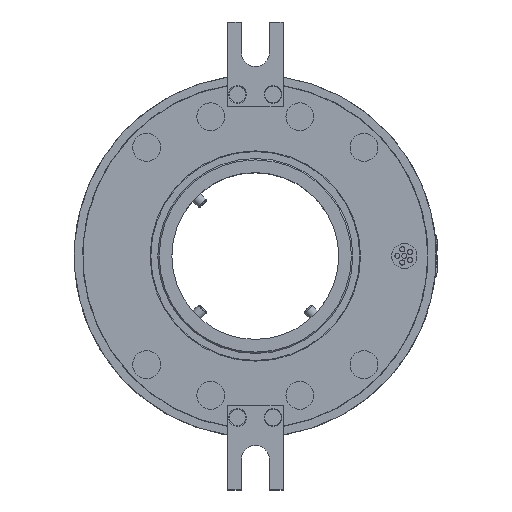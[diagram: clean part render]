
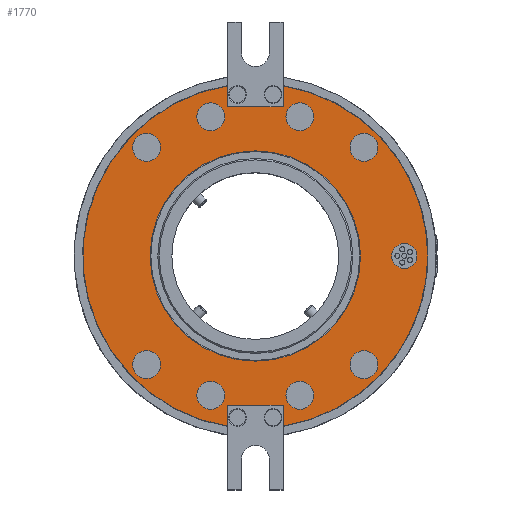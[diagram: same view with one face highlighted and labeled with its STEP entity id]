
A CAD part, top view. The second image highlights one B-rep face of the part: STEP entity #1770.
In plain terms, the highlighted planar face has unit normal (0, 0, 1).
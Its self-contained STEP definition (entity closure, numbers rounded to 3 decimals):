
#180=FACE_BOUND('',#3819,.T.);
#181=FACE_BOUND('',#3820,.T.);
#182=FACE_BOUND('',#3821,.T.);
#183=FACE_BOUND('',#3822,.T.);
#184=FACE_BOUND('',#3823,.T.);
#185=FACE_BOUND('',#3824,.T.);
#186=FACE_BOUND('',#3825,.T.);
#187=FACE_BOUND('',#3826,.T.);
#188=FACE_BOUND('',#3827,.T.);
#189=FACE_BOUND('',#3828,.T.);
#190=FACE_BOUND('',#3829,.T.);
#1070=CIRCLE('',#16500,5.);
#1071=CIRCLE('',#16501,5.);
#1072=CIRCLE('',#16502,5.);
#1073=CIRCLE('',#16503,5.);
#1074=CIRCLE('',#16504,4.5);
#1075=CIRCLE('',#16505,5.);
#1076=CIRCLE('',#16506,5.);
#1077=CIRCLE('',#16507,5.);
#1078=CIRCLE('',#16508,5.);
#1079=CIRCLE('',#16509,37.75);
#1080=CIRCLE('',#16510,61.9);
#1081=CIRCLE('',#16511,61.9);
#1770=ADVANCED_FACE('',(#180,#181,#182,#183,#184,#185,#186,#187,#188,#189,
#190),#2342,.T.);
#2342=PLANE('',#16512);
#3819=EDGE_LOOP('',(#7593));
#3820=EDGE_LOOP('',(#7594));
#3821=EDGE_LOOP('',(#7595));
#3822=EDGE_LOOP('',(#7596));
#3823=EDGE_LOOP('',(#7597));
#3824=EDGE_LOOP('',(#7598));
#3825=EDGE_LOOP('',(#7599));
#3826=EDGE_LOOP('',(#7600));
#3827=EDGE_LOOP('',(#7601));
#3828=EDGE_LOOP('',(#7602));
#3829=EDGE_LOOP('',(#7603,#7604,#7605,#7606,#7607,#7608,#7609,#7610));
#4493=LINE('',#31099,#5117);
#4494=LINE('',#31102,#5118);
#4495=LINE('',#31106,#5119);
#4496=LINE('',#31108,#5120);
#4497=LINE('',#31110,#5121);
#4498=LINE('',#31114,#5122);
#5117=VECTOR('',#18080,1.);
#5118=VECTOR('',#18081,1.);
#5119=VECTOR('',#18084,1.);
#5120=VECTOR('',#18085,1.);
#5121=VECTOR('',#18086,1.);
#5122=VECTOR('',#18089,1.);
#7593=ORIENTED_EDGE('',*,*,#13277,.T.);
#7594=ORIENTED_EDGE('',*,*,#13278,.T.);
#7595=ORIENTED_EDGE('',*,*,#13279,.T.);
#7596=ORIENTED_EDGE('',*,*,#13280,.T.);
#7597=ORIENTED_EDGE('',*,*,#13281,.T.);
#7598=ORIENTED_EDGE('',*,*,#13282,.T.);
#7599=ORIENTED_EDGE('',*,*,#13283,.T.);
#7600=ORIENTED_EDGE('',*,*,#13284,.T.);
#7601=ORIENTED_EDGE('',*,*,#13285,.T.);
#7602=ORIENTED_EDGE('',*,*,#13286,.T.);
#7603=ORIENTED_EDGE('',*,*,#13287,.T.);
#7604=ORIENTED_EDGE('',*,*,#13288,.T.);
#7605=ORIENTED_EDGE('',*,*,#13289,.F.);
#7606=ORIENTED_EDGE('',*,*,#13290,.T.);
#7607=ORIENTED_EDGE('',*,*,#13291,.T.);
#7608=ORIENTED_EDGE('',*,*,#13292,.T.);
#7609=ORIENTED_EDGE('',*,*,#13293,.F.);
#7610=ORIENTED_EDGE('',*,*,#13294,.T.);
#11135=VERTEX_POINT('',#31080);
#11136=VERTEX_POINT('',#31082);
#11137=VERTEX_POINT('',#31084);
#11138=VERTEX_POINT('',#31086);
#11139=VERTEX_POINT('',#31088);
#11140=VERTEX_POINT('',#31090);
#11141=VERTEX_POINT('',#31092);
#11142=VERTEX_POINT('',#31094);
#11143=VERTEX_POINT('',#31096);
#11144=VERTEX_POINT('',#31098);
#11145=VERTEX_POINT('',#31100);
#11146=VERTEX_POINT('',#31101);
#11147=VERTEX_POINT('',#31103);
#11148=VERTEX_POINT('',#31105);
#11149=VERTEX_POINT('',#31107);
#11150=VERTEX_POINT('',#31109);
#11151=VERTEX_POINT('',#31111);
#11152=VERTEX_POINT('',#31113);
#13277=EDGE_CURVE('',#11135,#11135,#1070,.T.);
#13278=EDGE_CURVE('',#11136,#11136,#1071,.T.);
#13279=EDGE_CURVE('',#11137,#11137,#1072,.T.);
#13280=EDGE_CURVE('',#11138,#11138,#1073,.T.);
#13281=EDGE_CURVE('',#11139,#11139,#1074,.T.);
#13282=EDGE_CURVE('',#11140,#11140,#1075,.T.);
#13283=EDGE_CURVE('',#11141,#11141,#1076,.T.);
#13284=EDGE_CURVE('',#11142,#11142,#1077,.T.);
#13285=EDGE_CURVE('',#11143,#11143,#1078,.T.);
#13286=EDGE_CURVE('',#11144,#11144,#1079,.T.);
#13287=EDGE_CURVE('',#11145,#11146,#4493,.T.);
#13288=EDGE_CURVE('',#11146,#11147,#4494,.T.);
#13289=EDGE_CURVE('',#11148,#11147,#1080,.T.);
#13290=EDGE_CURVE('',#11148,#11149,#4495,.T.);
#13291=EDGE_CURVE('',#11149,#11150,#4496,.T.);
#13292=EDGE_CURVE('',#11150,#11151,#4497,.T.);
#13293=EDGE_CURVE('',#11152,#11151,#1081,.T.);
#13294=EDGE_CURVE('',#11152,#11145,#4498,.T.);
#16500=AXIS2_PLACEMENT_3D('',#31079,#18060,#18061);
#16501=AXIS2_PLACEMENT_3D('',#31081,#18062,#18063);
#16502=AXIS2_PLACEMENT_3D('',#31083,#18064,#18065);
#16503=AXIS2_PLACEMENT_3D('',#31085,#18066,#18067);
#16504=AXIS2_PLACEMENT_3D('',#31087,#18068,#18069);
#16505=AXIS2_PLACEMENT_3D('',#31089,#18070,#18071);
#16506=AXIS2_PLACEMENT_3D('',#31091,#18072,#18073);
#16507=AXIS2_PLACEMENT_3D('',#31093,#18074,#18075);
#16508=AXIS2_PLACEMENT_3D('',#31095,#18076,#18077);
#16509=AXIS2_PLACEMENT_3D('',#31097,#18078,#18079);
#16510=AXIS2_PLACEMENT_3D('',#31104,#18082,#18083);
#16511=AXIS2_PLACEMENT_3D('',#31112,#18087,#18088);
#16512=AXIS2_PLACEMENT_3D('',#31115,#18090,#18091);
#18060=DIRECTION('',(0.,0.,-1.));
#18061=DIRECTION('',(1.,0.,0.));
#18062=DIRECTION('',(0.,0.,-1.));
#18063=DIRECTION('',(1.,0.,0.));
#18064=DIRECTION('',(0.,0.,-1.));
#18065=DIRECTION('',(1.,0.,0.));
#18066=DIRECTION('',(0.,0.,-1.));
#18067=DIRECTION('',(1.,0.,0.));
#18068=DIRECTION('',(0.,0.,-1.));
#18069=DIRECTION('',(1.,0.,0.));
#18070=DIRECTION('',(0.,0.,-1.));
#18071=DIRECTION('',(1.,0.,0.));
#18072=DIRECTION('',(0.,0.,-1.));
#18073=DIRECTION('',(1.,0.,0.));
#18074=DIRECTION('',(0.,0.,-1.));
#18075=DIRECTION('',(1.,0.,0.));
#18076=DIRECTION('',(0.,0.,-1.));
#18077=DIRECTION('',(1.,0.,0.));
#18078=DIRECTION('',(0.,0.,-1.));
#18079=DIRECTION('',(1.,0.,0.));
#18080=DIRECTION('',(-1.,0.,0.));
#18081=DIRECTION('',(0.,1.,0.));
#18082=DIRECTION('',(0.,0.,-1.));
#18083=DIRECTION('',(1.,0.,0.));
#18084=DIRECTION('',(0.,1.,0.));
#18085=DIRECTION('',(1.,0.,0.));
#18086=DIRECTION('',(0.,-1.,0.));
#18087=DIRECTION('',(0.,0.,-1.));
#18088=DIRECTION('',(1.,0.,0.));
#18089=DIRECTION('',(0.,-1.,0.));
#18090=DIRECTION('',(0.,0.,1.));
#18091=DIRECTION('',(1.,0.,0.));
#31079=CARTESIAN_POINT('',(-39.,39.,61.5));
#31080=CARTESIAN_POINT('',(-34.,39.,61.5));
#31081=CARTESIAN_POINT('',(-16.,50.,61.5));
#31082=CARTESIAN_POINT('',(-11.,50.,61.5));
#31083=CARTESIAN_POINT('',(16.,50.,61.5));
#31084=CARTESIAN_POINT('',(21.,50.,61.5));
#31085=CARTESIAN_POINT('',(39.,39.,61.5));
#31086=CARTESIAN_POINT('',(44.,39.,61.5));
#31087=CARTESIAN_POINT('',(53.5,0.,61.5));
#31088=CARTESIAN_POINT('',(58.,0.,61.5));
#31089=CARTESIAN_POINT('',(39.,-39.,61.5));
#31090=CARTESIAN_POINT('',(44.,-39.,61.5));
#31091=CARTESIAN_POINT('',(16.,-50.,61.5));
#31092=CARTESIAN_POINT('',(21.,-50.,61.5));
#31093=CARTESIAN_POINT('',(-16.,-50.,61.5));
#31094=CARTESIAN_POINT('',(-11.,-50.,61.5));
#31095=CARTESIAN_POINT('',(-39.,-39.,61.5));
#31096=CARTESIAN_POINT('',(-34.,-39.,61.5));
#31097=CARTESIAN_POINT('',(0.,0.,61.5));
#31098=CARTESIAN_POINT('',(37.75,0.,61.5));
#31099=CARTESIAN_POINT('',(10.,53.5,61.5));
#31100=CARTESIAN_POINT('',(10.,53.5,61.5));
#31101=CARTESIAN_POINT('',(-10.,53.5,61.5));
#31102=CARTESIAN_POINT('',(-10.,53.5,61.5));
#31103=CARTESIAN_POINT('',(-10.,61.087,61.5));
#31104=CARTESIAN_POINT('',(0.,0.,
61.5));
#31105=CARTESIAN_POINT('',(-10.,-61.087,61.5));
#31106=CARTESIAN_POINT('',(-10.,-84.,61.5));
#31107=CARTESIAN_POINT('',(-10.,-53.5,61.5));
#31108=CARTESIAN_POINT('',(-10.,-53.5,61.5));
#31109=CARTESIAN_POINT('',(10.,-53.5,61.5));
#31110=CARTESIAN_POINT('',(10.,-53.5,61.5));
#31111=CARTESIAN_POINT('',(10.,-61.087,61.5));
#31112=CARTESIAN_POINT('',(0.,0.,
61.5));
#31113=CARTESIAN_POINT('',(10.,61.087,61.5));
#31114=CARTESIAN_POINT('',(10.,84.,61.5));
#31115=CARTESIAN_POINT('',(0.,0.,
61.5));
